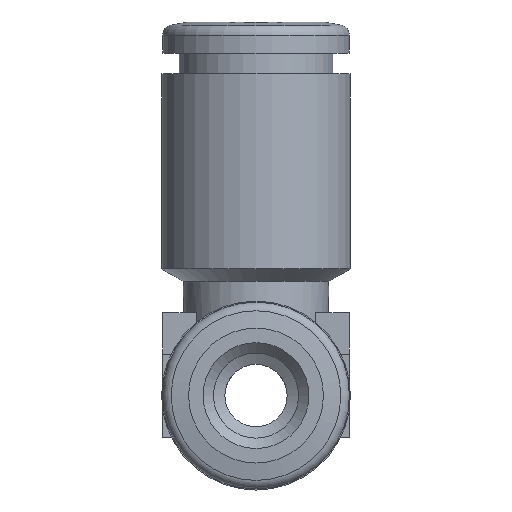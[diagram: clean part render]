
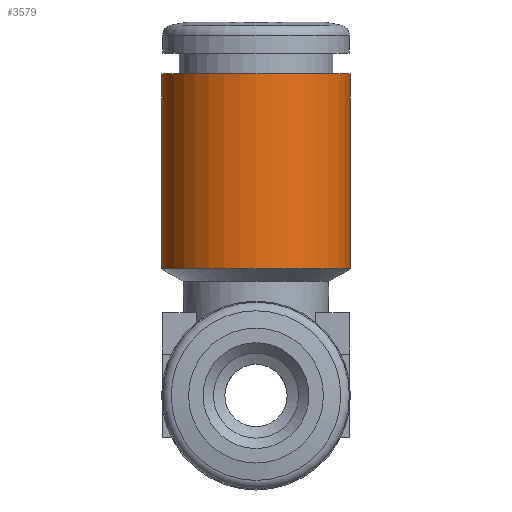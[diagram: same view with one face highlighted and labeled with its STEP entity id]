
A CAD part, left-side view. The second image highlights one B-rep face of the part: STEP entity #3579.
In plain terms, the highlighted cylindrical face has radius 4.55 mm (diameter 9.1 mm), a full revolution.
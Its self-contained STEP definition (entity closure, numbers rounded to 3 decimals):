
#1687=ORIENTED_EDGE('',*,*,#2095,.T.);
#1688=ORIENTED_EDGE('',*,*,#2096,.F.);
#1865=CIRCLE('',#3397,4.55);
#1866=CIRCLE('',#3399,4.55);
#1971=VERTEX_POINT('',#3135);
#1972=VERTEX_POINT('',#3138);
#2095=EDGE_CURVE('',#1971,#1971,#1865,.T.);
#2096=EDGE_CURVE('',#1972,#1972,#1866,.T.);
#2225=EDGE_LOOP('',(#1687));
#2226=EDGE_LOOP('',(#1688));
#2397=FACE_BOUND('',#2225,.T.);
#2398=FACE_BOUND('',#2226,.T.);
#2678=DIRECTION('',(-1.,0.,0.));
#2679=DIRECTION('',(0.,0.,4.55));
#2680=DIRECTION('',(1.,0.,0.));
#2681=DIRECTION('',(0.,-1.,0.));
#2682=DIRECTION('',(-1.,0.,0.));
#2683=DIRECTION('',(0.,-4.55,0.));
#3135=CARTESIAN_POINT('',(-7.156,-16.961,4.55));
#3136=CARTESIAN_POINT('',(-7.156,-16.961,0.));
#3137=CARTESIAN_POINT('',(-16.55,-16.961,0.));
#3138=CARTESIAN_POINT('',(-16.55,-21.511,0.));
#3139=CARTESIAN_POINT('',(-16.55,-16.961,0.));
#3397=AXIS2_PLACEMENT_3D('',#3136,#2678,#2679);
#3398=AXIS2_PLACEMENT_3D('',#3137,#2680,#2681);
#3399=AXIS2_PLACEMENT_3D('',#3139,#2682,#2683);
#3525=CYLINDRICAL_SURFACE('',#3398,4.55);
#3579=ADVANCED_FACE('',(#2397,#2398),#3525,.T.);
